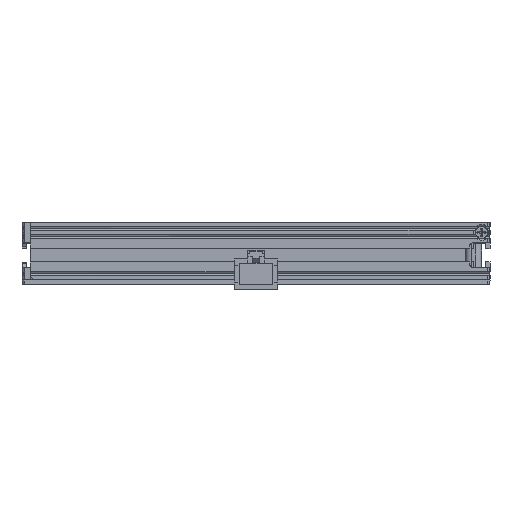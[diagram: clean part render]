
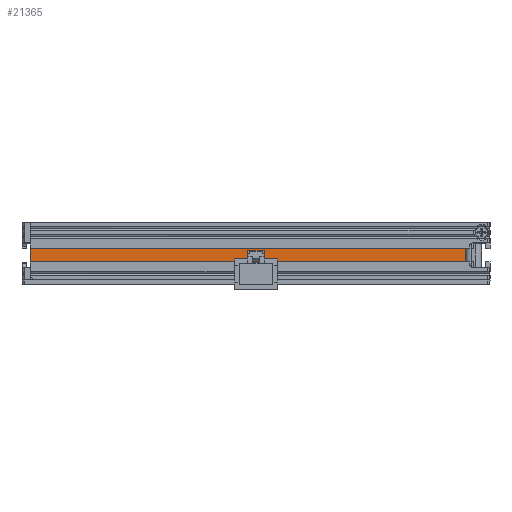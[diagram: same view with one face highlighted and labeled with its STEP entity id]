
A CAD part, top view. The second image highlights one B-rep face of the part: STEP entity #21365.
In plain terms, the highlighted planar face has unit normal (0, 0, 1).
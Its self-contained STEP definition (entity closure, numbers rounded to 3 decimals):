
#2891 = ORIENTED_EDGE ( 'NONE', *, *, #37699, .F. ) ;
#4004 = DIRECTION ( 'NONE',  ( 0., 1., 0. ) ) ;
#5056 = LINE ( 'NONE', #18983, #27480 ) ;
#5266 = LINE ( 'NONE', #15938, #23490 ) ;
#8371 = EDGE_CURVE ( 'NONE', #27905, #14313, #5266, .T. ) ;
#9330 = CARTESIAN_POINT ( 'NONE',  ( 50.5, 5.35, 39.5 ) ) ;
#10948 = LINE ( 'NONE', #23063, #19807 ) ;
#12688 = VECTOR ( 'NONE', #4004, 1000. ) ;
#12846 = DIRECTION ( 'NONE',  ( 1., 0., 0. ) ) ;
#13238 = EDGE_CURVE ( 'NONE', #14313, #32399, #22453, .T. ) ;
#13787 = CARTESIAN_POINT ( 'NONE',  ( -54.5, 8.65, 39.5 ) ) ;
#13936 = AXIS2_PLACEMENT_3D ( 'NONE', #16516, #34334, #37506 ) ;
#14313 = VERTEX_POINT ( 'NONE', #9330 ) ;
#15479 = ORIENTED_EDGE ( 'NONE', *, *, #8371, .T. ) ;
#15938 = CARTESIAN_POINT ( 'NONE',  ( -56.5, 5.35, 39.5 ) ) ;
#16516 = CARTESIAN_POINT ( 'NONE',  ( -56.5, 5.35, 39.5 ) ) ;
#17629 = EDGE_CURVE ( 'NONE', #33317, #32399, #10948, .T. ) ;
#17719 = ORIENTED_EDGE ( 'NONE', *, *, #17629, .F. ) ;
#18889 = CARTESIAN_POINT ( 'NONE',  ( 50.5, 5.35, 39.5 ) ) ;
#18983 = CARTESIAN_POINT ( 'NONE',  ( -54.5, 1., 39.5 ) ) ;
#19482 = CARTESIAN_POINT ( 'NONE',  ( -54.5, 5.35, 39.5 ) ) ;
#19807 = VECTOR ( 'NONE', #32100, 1000. ) ;
#21365 = ADVANCED_FACE ( 'NONE', ( #37423 ), #31289, .F. ) ;
#22453 = LINE ( 'NONE', #18889, #12688 ) ;
#23063 = CARTESIAN_POINT ( 'NONE',  ( -56.5, 8.65, 39.5 ) ) ;
#23490 = VECTOR ( 'NONE', #12846, 1000. ) ;
#25083 = ORIENTED_EDGE ( 'NONE', *, *, #13238, .T. ) ;
#27480 = VECTOR ( 'NONE', #27849, 1000. ) ;
#27849 = DIRECTION ( 'NONE',  ( 0., 1., 0. ) ) ;
#27905 = VERTEX_POINT ( 'NONE', #19482 ) ;
#28060 = EDGE_LOOP ( 'NONE', ( #15479, #25083, #17719, #2891 ) ) ;
#31289 = PLANE ( 'NONE',  #13936 ) ;
#32100 = DIRECTION ( 'NONE',  ( 1., 0., 0. ) ) ;
#32399 = VERTEX_POINT ( 'NONE', #36494 ) ;
#33317 = VERTEX_POINT ( 'NONE', #13787 ) ;
#34334 = DIRECTION ( 'NONE',  ( 0., 0., -1. ) ) ;
#36494 = CARTESIAN_POINT ( 'NONE',  ( 50.5, 8.65, 39.5 ) ) ;
#37423 = FACE_OUTER_BOUND ( 'NONE', #28060, .T. ) ;
#37506 = DIRECTION ( 'NONE',  ( -1., 0., 0. ) ) ;
#37699 = EDGE_CURVE ( 'NONE', #27905, #33317, #5056, .T. ) ;
